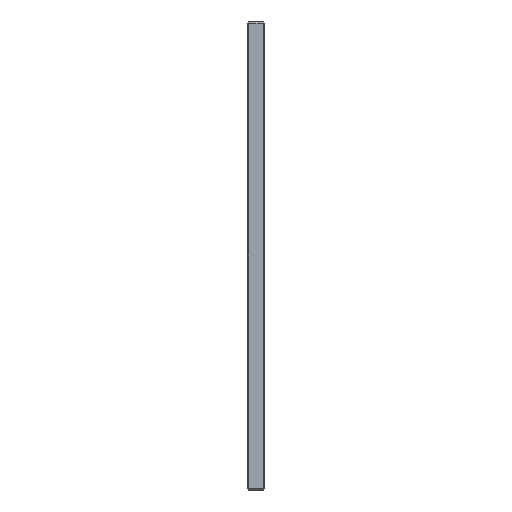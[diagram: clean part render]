
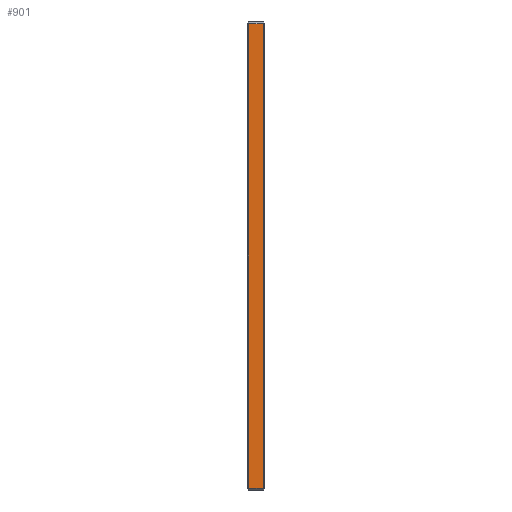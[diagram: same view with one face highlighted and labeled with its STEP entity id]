
A CAD part, left-side view. The second image highlights one B-rep face of the part: STEP entity #901.
In plain terms, the highlighted planar face has unit normal (-1, 0, 0).
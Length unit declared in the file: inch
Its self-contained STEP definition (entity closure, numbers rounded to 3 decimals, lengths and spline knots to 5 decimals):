
#17 = EDGE_CURVE ( 'NONE', #1944, #699, #1015, .T. ) ;
#103 = DIRECTION ( 'NONE',  ( 1., 0., 0. ) ) ;
#122 = ORIENTED_EDGE ( 'NONE', *, *, #1197, .T. ) ;
#476 = CARTESIAN_POINT ( 'NONE',  ( -11.6875, 0.05, -6.625 ) ) ;
#531 = EDGE_LOOP ( 'NONE', ( #1597, #626, #122, #1689 ) ) ;
#626 = ORIENTED_EDGE ( 'NONE', *, *, #1277, .T. ) ;
#685 = CARTESIAN_POINT ( 'NONE',  ( -11.6875, 0.5, -6.575 ) ) ;
#699 = VERTEX_POINT ( 'NONE', #1209 ) ;
#708 = PLANE ( 'NONE',  #1792 ) ;
#716 = VECTOR ( 'NONE', #1901, 39.37008 ) ;
#876 = DIRECTION ( 'NONE',  ( 0., 1., 0. ) ) ;
#880 = CARTESIAN_POINT ( 'NONE',  ( -11.6875, 0.5, 6.575 ) ) ;
#901 = ADVANCED_FACE ( 'Placement Plane', ( #1591 ), #708, .F. ) ;
#941 = LINE ( 'NONE', #685, #961 ) ;
#961 = VECTOR ( 'NONE', #1820, 39.37008 ) ;
#968 = VERTEX_POINT ( 'NONE', #1887 ) ;
#1015 = LINE ( 'NONE', #880, #1381 ) ;
#1160 = EDGE_CURVE ( 'NONE', #699, #968, #1205, .T. ) ;
#1197 = EDGE_CURVE ( 'NONE', #1922, #1944, #1507, .T. ) ;
#1205 = LINE ( 'NONE', #2050, #1459 ) ;
#1209 = CARTESIAN_POINT ( 'NONE',  ( -11.6875, 0.45, 6.575 ) ) ;
#1230 = DIRECTION ( 'NONE',  ( 0., 0., -1. ) ) ;
#1277 = EDGE_CURVE ( 'NONE', #968, #1922, #941, .T. ) ;
#1381 = VECTOR ( 'NONE', #876, 39.37008 ) ;
#1459 = VECTOR ( 'NONE', #1230, 39.37008 ) ;
#1507 = LINE ( 'NONE', #476, #716 ) ;
#1591 = FACE_OUTER_BOUND ( 'NONE', #531, .T. ) ;
#1597 = ORIENTED_EDGE ( 'NONE', *, *, #1160, .T. ) ;
#1689 = ORIENTED_EDGE ( 'NONE', *, *, #17, .T. ) ;
#1718 = CARTESIAN_POINT ( 'NONE',  ( -11.6875, 0.05, 6.575 ) ) ;
#1792 = AXIS2_PLACEMENT_3D ( 'NONE', #2044, #103, #1877 ) ;
#1820 = DIRECTION ( 'NONE',  ( 0., -1., 0. ) ) ;
#1877 = DIRECTION ( 'NONE',  ( 0., 0., -1. ) ) ;
#1887 = CARTESIAN_POINT ( 'NONE',  ( -11.6875, 0.45, -6.575 ) ) ;
#1901 = DIRECTION ( 'NONE',  ( 0., 0., 1. ) ) ;
#1922 = VERTEX_POINT ( 'NONE', #2047 ) ;
#1944 = VERTEX_POINT ( 'NONE', #1718 ) ;
#2044 = CARTESIAN_POINT ( 'NONE',  ( -11.6875, 0.5, -6.625 ) ) ;
#2047 = CARTESIAN_POINT ( 'NONE',  ( -11.6875, 0.05, -6.575 ) ) ;
#2050 = CARTESIAN_POINT ( 'NONE',  ( -11.6875, 0.45, -6.625 ) ) ;
